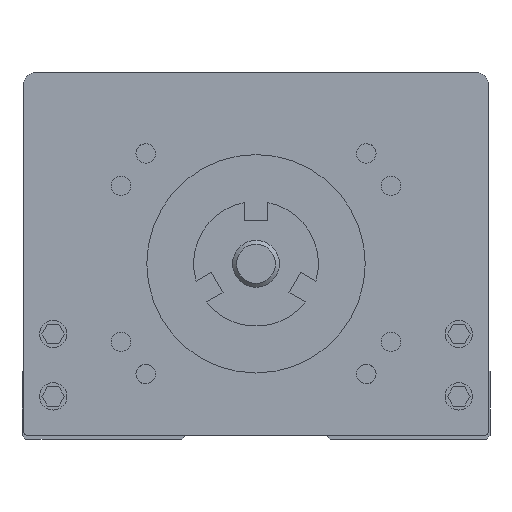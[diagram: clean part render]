
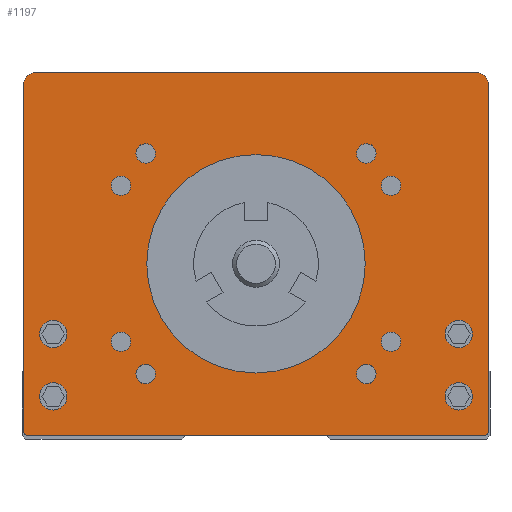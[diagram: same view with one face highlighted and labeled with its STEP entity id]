
A CAD part, front view. The second image highlights one B-rep face of the part: STEP entity #1197.
In plain terms, the highlighted planar face has unit normal (0, -1, 0).
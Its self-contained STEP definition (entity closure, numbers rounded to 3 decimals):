
#606=CIRCLE('',#8698,1.25);
#607=CIRCLE('',#8699,1.25);
#608=CIRCLE('',#8700,1.25);
#609=CIRCLE('',#8701,1.25);
#610=CIRCLE('',#8702,1.25);
#611=CIRCLE('',#8703,1.25);
#612=CIRCLE('',#8704,1.25);
#613=CIRCLE('',#8705,1.25);
#614=CIRCLE('',#8706,0.5);
#615=CIRCLE('',#8707,1.5);
#616=CIRCLE('',#8708,1.5);
#617=CIRCLE('',#8709,0.5);
#618=CIRCLE('',#8710,1.75);
#619=CIRCLE('',#8711,1.75);
#620=CIRCLE('',#8712,1.75);
#621=CIRCLE('',#8713,1.75);
#622=CIRCLE('',#8714,14.);
#922=FACE_BOUND('',#2382,.T.);
#923=FACE_BOUND('',#2383,.T.);
#924=FACE_BOUND('',#2384,.T.);
#925=FACE_BOUND('',#2385,.T.);
#926=FACE_BOUND('',#2386,.T.);
#927=FACE_BOUND('',#2387,.T.);
#928=FACE_BOUND('',#2388,.T.);
#929=FACE_BOUND('',#2389,.T.);
#930=FACE_BOUND('',#2390,.T.);
#931=FACE_BOUND('',#2391,.T.);
#932=FACE_BOUND('',#2392,.T.);
#933=FACE_BOUND('',#2393,.T.);
#934=FACE_BOUND('',#2394,.T.);
#935=FACE_BOUND('',#2395,.T.);
#1197=ADVANCED_FACE('',(#922,#923,#924,#925,#926,#927,#928,#929,#930,#931,
#932,#933,#934,#935),#1662,.F.);
#1662=PLANE('',#8715);
#2382=EDGE_LOOP('',(#3204));
#2383=EDGE_LOOP('',(#3205));
#2384=EDGE_LOOP('',(#3206));
#2385=EDGE_LOOP('',(#3207));
#2386=EDGE_LOOP('',(#3208));
#2387=EDGE_LOOP('',(#3209));
#2388=EDGE_LOOP('',(#3210));
#2389=EDGE_LOOP('',(#3211));
#2390=EDGE_LOOP('',(#3212,#3213,#3214,#3215,#3216,#3217,#3218,#3219));
#2391=EDGE_LOOP('',(#3220));
#2392=EDGE_LOOP('',(#3221));
#2393=EDGE_LOOP('',(#3222));
#2394=EDGE_LOOP('',(#3223));
#2395=EDGE_LOOP('',(#3224));
#3204=ORIENTED_EDGE('',*,*,#6093,.F.);
#3205=ORIENTED_EDGE('',*,*,#6094,.F.);
#3206=ORIENTED_EDGE('',*,*,#6095,.F.);
#3207=ORIENTED_EDGE('',*,*,#6096,.F.);
#3208=ORIENTED_EDGE('',*,*,#6097,.F.);
#3209=ORIENTED_EDGE('',*,*,#6098,.F.);
#3210=ORIENTED_EDGE('',*,*,#6099,.F.);
#3211=ORIENTED_EDGE('',*,*,#6100,.F.);
#3212=ORIENTED_EDGE('',*,*,#5957,.T.);
#3213=ORIENTED_EDGE('',*,*,#6101,.T.);
#3214=ORIENTED_EDGE('',*,*,#6072,.T.);
#3215=ORIENTED_EDGE('',*,*,#6102,.T.);
#3216=ORIENTED_EDGE('',*,*,#6103,.F.);
#3217=ORIENTED_EDGE('',*,*,#6104,.T.);
#3218=ORIENTED_EDGE('',*,*,#6105,.T.);
#3219=ORIENTED_EDGE('',*,*,#6106,.T.);
#3220=ORIENTED_EDGE('',*,*,#6107,.F.);
#3221=ORIENTED_EDGE('',*,*,#6108,.F.);
#3222=ORIENTED_EDGE('',*,*,#6109,.F.);
#3223=ORIENTED_EDGE('',*,*,#6110,.F.);
#3224=ORIENTED_EDGE('',*,*,#6111,.F.);
#5196=VERTEX_POINT('',#11889);
#5197=VERTEX_POINT('',#11891);
#5281=VERTEX_POINT('',#12154);
#5282=VERTEX_POINT('',#12156);
#5302=VERTEX_POINT('',#12202);
#5303=VERTEX_POINT('',#12204);
#5304=VERTEX_POINT('',#12206);
#5305=VERTEX_POINT('',#12208);
#5306=VERTEX_POINT('',#12210);
#5307=VERTEX_POINT('',#12212);
#5308=VERTEX_POINT('',#12214);
#5309=VERTEX_POINT('',#12216);
#5310=VERTEX_POINT('',#12219);
#5311=VERTEX_POINT('',#12221);
#5312=VERTEX_POINT('',#12223);
#5313=VERTEX_POINT('',#12225);
#5314=VERTEX_POINT('',#12228);
#5315=VERTEX_POINT('',#12230);
#5316=VERTEX_POINT('',#12232);
#5317=VERTEX_POINT('',#12234);
#5318=VERTEX_POINT('',#12236);
#5957=EDGE_CURVE('',#5197,#5196,#7063,.T.);
#6072=EDGE_CURVE('',#5282,#5281,#7136,.T.);
#6093=EDGE_CURVE('',#5302,#5302,#606,.T.);
#6094=EDGE_CURVE('',#5303,#5303,#607,.T.);
#6095=EDGE_CURVE('',#5304,#5304,#608,.T.);
#6096=EDGE_CURVE('',#5305,#5305,#609,.T.);
#6097=EDGE_CURVE('',#5306,#5306,#610,.T.);
#6098=EDGE_CURVE('',#5307,#5307,#611,.T.);
#6099=EDGE_CURVE('',#5308,#5308,#612,.T.);
#6100=EDGE_CURVE('',#5309,#5309,#613,.T.);
#6101=EDGE_CURVE('',#5196,#5282,#614,.T.);
#6102=EDGE_CURVE('',#5281,#5310,#615,.T.);
#6103=EDGE_CURVE('',#5311,#5310,#7149,.T.);
#6104=EDGE_CURVE('',#5311,#5312,#616,.T.);
#6105=EDGE_CURVE('',#5312,#5313,#7150,.T.);
#6106=EDGE_CURVE('',#5313,#5197,#617,.T.);
#6107=EDGE_CURVE('',#5314,#5314,#618,.T.);
#6108=EDGE_CURVE('',#5315,#5315,#619,.T.);
#6109=EDGE_CURVE('',#5316,#5316,#620,.T.);
#6110=EDGE_CURVE('',#5317,#5317,#621,.T.);
#6111=EDGE_CURVE('',#5318,#5318,#622,.T.);
#7063=LINE('',#11890,#7843);
#7136=LINE('',#12155,#7916);
#7149=LINE('',#12220,#7929);
#7150=LINE('',#12224,#7930);
#7843=VECTOR('',#9460,1.);
#7916=VECTOR('',#9699,1.);
#7929=VECTOR('',#9758,1.);
#7930=VECTOR('',#9761,1.);
#8698=AXIS2_PLACEMENT_3D('',#12201,#9738,#9739);
#8699=AXIS2_PLACEMENT_3D('',#12203,#9740,#9741);
#8700=AXIS2_PLACEMENT_3D('',#12205,#9742,#9743);
#8701=AXIS2_PLACEMENT_3D('',#12207,#9744,#9745);
#8702=AXIS2_PLACEMENT_3D('',#12209,#9746,#9747);
#8703=AXIS2_PLACEMENT_3D('',#12211,#9748,#9749);
#8704=AXIS2_PLACEMENT_3D('',#12213,#9750,#9751);
#8705=AXIS2_PLACEMENT_3D('',#12215,#9752,#9753);
#8706=AXIS2_PLACEMENT_3D('',#12217,#9754,#9755);
#8707=AXIS2_PLACEMENT_3D('',#12218,#9756,#9757);
#8708=AXIS2_PLACEMENT_3D('',#12222,#9759,#9760);
#8709=AXIS2_PLACEMENT_3D('',#12226,#9762,#9763);
#8710=AXIS2_PLACEMENT_3D('',#12227,#9764,#9765);
#8711=AXIS2_PLACEMENT_3D('',#12229,#9766,#9767);
#8712=AXIS2_PLACEMENT_3D('',#12231,#9768,#9769);
#8713=AXIS2_PLACEMENT_3D('',#12233,#9770,#9771);
#8714=AXIS2_PLACEMENT_3D('',#12235,#9772,#9773);
#8715=AXIS2_PLACEMENT_3D('',#12237,#9774,#9775);
#9460=DIRECTION('',(1.,0.,0.));
#9699=DIRECTION('',(0.,0.,1.));
#9738=DIRECTION('',(0.,-1.,0.));
#9739=DIRECTION('',(0.,0.,1.));
#9740=DIRECTION('',(0.,-1.,0.));
#9741=DIRECTION('',(0.,0.,1.));
#9742=DIRECTION('',(0.,-1.,0.));
#9743=DIRECTION('',(0.,0.,1.));
#9744=DIRECTION('',(0.,-1.,0.));
#9745=DIRECTION('',(0.,0.,1.));
#9746=DIRECTION('',(0.,-1.,0.));
#9747=DIRECTION('',(0.,0.,1.));
#9748=DIRECTION('',(0.,-1.,0.));
#9749=DIRECTION('',(0.,0.,1.));
#9750=DIRECTION('',(0.,-1.,0.));
#9751=DIRECTION('',(0.,0.,1.));
#9752=DIRECTION('',(0.,-1.,0.));
#9753=DIRECTION('',(0.,0.,1.));
#9754=DIRECTION('',(0.,-1.,0.));
#9755=DIRECTION('',(0.,0.,1.));
#9756=DIRECTION('',(0.,-1.,0.));
#9757=DIRECTION('',(1.,0.,0.));
#9758=DIRECTION('',(1.,0.,0.));
#9759=DIRECTION('',(0.,-1.,0.));
#9760=DIRECTION('',(0.,0.,1.));
#9761=DIRECTION('',(0.,0.,-1.));
#9762=DIRECTION('',(0.,-1.,0.));
#9763=DIRECTION('',(0.,0.,1.));
#9764=DIRECTION('',(0.,-1.,0.));
#9765=DIRECTION('',(-1.,0.,0.));
#9766=DIRECTION('',(0.,-1.,0.));
#9767=DIRECTION('',(-1.,0.,0.));
#9768=DIRECTION('',(0.,-1.,0.));
#9769=DIRECTION('',(-1.,0.,0.));
#9770=DIRECTION('',(0.,-1.,0.));
#9771=DIRECTION('',(-1.,0.,0.));
#9772=DIRECTION('',(0.,-1.,0.));
#9773=DIRECTION('',(-1.,0.,0.));
#9774=DIRECTION('',(0.,1.,0.));
#9775=DIRECTION('',(1.,0.,0.));
#11889=CARTESIAN_POINT('',(29.3,50.,0.));
#11890=CARTESIAN_POINT('',(-28.3,50.,0.));
#11891=CARTESIAN_POINT('',(-29.3,50.,0.));
#12154=CARTESIAN_POINT('',(29.8,50.,45.));
#12155=CARTESIAN_POINT('',(29.8,50.,1.5));
#12156=CARTESIAN_POINT('',(29.8,50.,0.5));
#12201=CARTESIAN_POINT('',(-14.142,50.,36.142));
#12202=CARTESIAN_POINT('',(-14.142,50.,37.392));
#12203=CARTESIAN_POINT('',(14.142,50.,36.142));
#12204=CARTESIAN_POINT('',(14.142,50.,37.392));
#12205=CARTESIAN_POINT('',(14.142,50.,7.858));
#12206=CARTESIAN_POINT('',(14.142,50.,9.108));
#12207=CARTESIAN_POINT('',(-14.142,50.,7.858));
#12208=CARTESIAN_POINT('',(-14.142,50.,9.108));
#12209=CARTESIAN_POINT('',(-17.321,50.,32.));
#12210=CARTESIAN_POINT('',(-17.321,50.,33.25));
#12211=CARTESIAN_POINT('',(17.321,50.,32.));
#12212=CARTESIAN_POINT('',(17.321,50.,33.25));
#12213=CARTESIAN_POINT('',(17.321,50.,12.));
#12214=CARTESIAN_POINT('',(17.321,50.,13.25));
#12215=CARTESIAN_POINT('',(-17.321,50.,12.));
#12216=CARTESIAN_POINT('',(-17.321,50.,13.25));
#12217=CARTESIAN_POINT('',(29.3,50.,0.5));
#12218=CARTESIAN_POINT('',(28.3,50.,45.));
#12219=CARTESIAN_POINT('',(28.3,50.,46.5));
#12220=CARTESIAN_POINT('',(-28.3,50.,46.5));
#12221=CARTESIAN_POINT('',(-28.3,50.,46.5));
#12222=CARTESIAN_POINT('',(-28.3,50.,45.));
#12223=CARTESIAN_POINT('',(-29.8,50.,45.));
#12224=CARTESIAN_POINT('',(-29.8,50.,42.5));
#12225=CARTESIAN_POINT('',(-29.8,50.,0.5));
#12226=CARTESIAN_POINT('',(-29.3,50.,0.5));
#12227=CARTESIAN_POINT('',(-26.,50.,13.));
#12228=CARTESIAN_POINT('',(-27.75,50.,13.));
#12229=CARTESIAN_POINT('',(-26.,50.,5.));
#12230=CARTESIAN_POINT('',(-27.75,50.,5.));
#12231=CARTESIAN_POINT('',(26.,50.,5.));
#12232=CARTESIAN_POINT('',(24.25,50.,5.));
#12233=CARTESIAN_POINT('',(26.,50.,13.));
#12234=CARTESIAN_POINT('',(24.25,50.,13.));
#12235=CARTESIAN_POINT('',(0.,50.,22.));
#12236=CARTESIAN_POINT('',(-14.,50.,22.));
#12237=CARTESIAN_POINT('',(0.,50.,-28.5));
